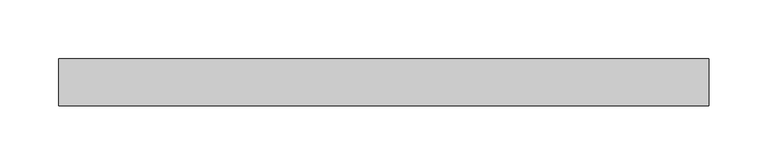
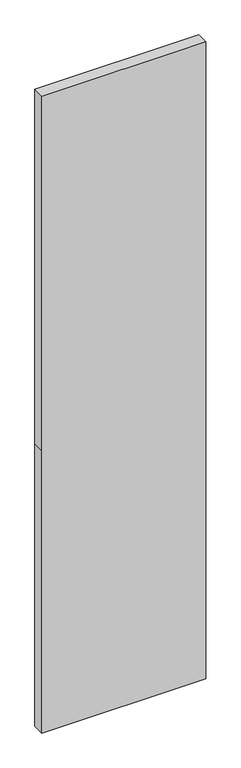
"""IFC4 building model written with IfcOpenShell, lengths in millimetres: plate geometry, Panneau système : Vitré."""

import ifcopenshell
import ifcopenshell.guid

model = None  # the IFC model being written
_history = None  # IfcOwnerHistory: only IFC2X3 demands one
_inside = {}  # id of a spatial element -> (the spatial element, [elements in it])
_under = {}  # id of a project, library or spatial element -> (it, [spatial elements below it])
_declared = {}  # id of a project -> (the project, [libraries it declares])
_typed = {}  # id of a type object -> (the type object, [elements of that type])
_made_of = {}  # id of a material, layer set ... -> (it, [elements and type objects made of it])


def new_model(schema):
    """Start an empty IFC model of exactly this schema.

    Asked for "IFC4X3", IfcOpenShell would pick the latest addendum, in which some entities
    have other attributes; the version numbers below select the first issue.
    IFC2X3 requires an IfcOwnerHistory on every rooted entity: one is made here for all.
    """
    global model, _history
    if schema == "IFC4X3":
        model = ifcopenshell.file(schema_version=(4, 3, 0, 0))
    else:
        model = ifcopenshell.file(schema=schema)
    _inside.clear()
    _under.clear()
    _declared.clear()
    _typed.clear()
    _made_of.clear()
    _history = None
    if model.schema == "IFC2X3":
        org = make("IfcOrganization", Name="unknown")
        user = make(
            "IfcPersonAndOrganization",
            ThePerson=make("IfcPerson", FamilyName="unknown"),
            TheOrganization=org,
        )
        app = make(
            "IfcApplication",
            ApplicationDeveloper=org,
            Version="unknown",
            ApplicationFullName="unknown",
            ApplicationIdentifier="unknown",
        )
        _history = make(
            "IfcOwnerHistory",
            OwningUser=user,
            OwningApplication=app,
            ChangeAction="ADDED",
            CreationDate=0,
        )
    return model


def make(cls, **values):
    """One entity of the class cls with the attributes given. An attribute that is None is left unset."""
    return model.create_entity(
        cls, **{name: value for name, value in values.items() if value is not None}
    )


def rooted(cls, **values):
    """An entity with a GlobalId (a new one), such as an element, a storey or a relation."""
    return make(cls, GlobalId=ifcopenshell.guid.new(), OwnerHistory=_history, **values)


def si_unit(unit_type, name, prefix=None):
    """IfcSIUnit, for example si_unit("LENGTHUNIT", "METRE", prefix="MILLI")."""
    return make("IfcSIUnit", UnitType=unit_type, Prefix=prefix, Name=name)


def assignment(units):
    """IfcUnitAssignment: the units of a project."""
    return None if units is None else make("IfcUnitAssignment", Units=units)


def point(xyz):
    """IfcCartesianPoint."""
    return None if xyz is None else make("IfcCartesianPoint", Coordinates=xyz)


def direction(xyz):
    """IfcDirection."""
    return None if xyz is None else make("IfcDirection", DirectionRatios=xyz)


def frame(location, z_axis=None, x_axis=None):
    """IfcAxis2Placement3D, a coordinate frame: its origin and axes. An axis left out is left unset."""
    return make(
        "IfcAxis2Placement3D",
        Location=point(location),
        Axis=direction(z_axis),
        RefDirection=direction(x_axis),
    )


def origin():
    """The frame at (0, 0, 0) with its axes left unset."""
    return frame((0.0, 0.0, 0.0))


def place(relative_to, where):
    """IfcLocalPlacement: puts the frame where relative to a parent placement (None: the world)."""
    return make(
        "IfcLocalPlacement", PlacementRelTo=relative_to, RelativePlacement=where
    )


def context(
    kind, dimensions, precision=None, world=None, true_north=None, identifier=None
):
    """IfcGeometricRepresentationContext, for example the 3D "Model" context."""
    return make(
        "IfcGeometricRepresentationContext",
        ContextIdentifier=identifier,
        ContextType=kind,
        CoordinateSpaceDimension=dimensions,
        Precision=precision,
        WorldCoordinateSystem=world,
        TrueNorth=true_north,
    )


def project(units=None, contexts=None):
    """IfcProject with its units and contexts."""
    return rooted(
        "IfcProject",
        Name="project",
        RepresentationContexts=contexts,
        UnitsInContext=assignment(units),
    )


def spatial(cls, under=None, at=None, **own):
    """A site, building, storey or space (cls), placed at a placement, below another one or the project."""
    s = rooted(cls, ObjectPlacement=at, **own)
    if under is not None:
        _under.setdefault(under.id(), (under, []))[1].append(s)
    return s


def polyline(points):
    """IfcPolyline through the points."""
    return make("IfcPolyline", Points=[point(p) for p in points])


def outline(outer, holes=None, kind="AREA"):
    """IfcArbitraryClosedProfileDef: a profile drawn as a closed curve; with holes, ...WithVoids."""
    if holes is None:
        return make("IfcArbitraryClosedProfileDef", ProfileType=kind, OuterCurve=outer)
    return make(
        "IfcArbitraryProfileDefWithVoids",
        ProfileType=kind,
        OuterCurve=outer,
        InnerCurves=holes,
    )


def extrude(swept, where, along, depth):
    """IfcExtrudedAreaSolid: the profile swept, set in the frame where, extruded along a direction by depth."""
    return make(
        "IfcExtrudedAreaSolid",
        SweptArea=swept,
        Position=where,
        ExtrudedDirection=direction(along),
        Depth=depth,
    )


def shape(context_of_items, identifier, shape_type, items):
    """IfcShapeRepresentation: the items that make up one representation, for example the "Body"."""
    return make(
        "IfcShapeRepresentation",
        ContextOfItems=context_of_items,
        RepresentationIdentifier=identifier,
        RepresentationType=shape_type,
        Items=items,
    )


def source(mapping_origin, context_of_items, identifier, shape_type, items):
    """IfcRepresentationMap: a shape defined once, which mapped items show again and again."""
    return make(
        "IfcRepresentationMap",
        MappingOrigin=mapping_origin,
        MappedRepresentation=shape(context_of_items, identifier, shape_type, items),
    )


def transform(
    local_origin,
    x_axis=None,
    y_axis=None,
    z_axis=None,
    scale=None,
    scale2=None,
    scale3=None,
    uniform=True,
):
    """IfcCartesianTransformationOperator3D, or its non-uniform kind. x_axis, y_axis, z_axis: its Axis1, 2, 3."""
    if uniform:
        return make(
            "IfcCartesianTransformationOperator3D",
            Axis1=direction(x_axis),
            Axis2=direction(y_axis),
            LocalOrigin=point(local_origin),
            Scale=scale,
            Axis3=direction(z_axis),
        )
    return make(
        "IfcCartesianTransformationOperator3DnonUniform",
        Axis1=direction(x_axis),
        Axis2=direction(y_axis),
        LocalOrigin=point(local_origin),
        Scale=scale,
        Axis3=direction(z_axis),
        Scale2=scale2,
        Scale3=scale3,
    )


def mapped(mapping_source, mapping_target):
    """IfcMappedItem: shows the shape of a source again, moved by a transform."""
    return make(
        "IfcMappedItem", MappingSource=mapping_source, MappingTarget=mapping_target
    )


def made_of(thing, what):
    """Note that an element or type object is made of a material, layer set ...; save() writes the relation."""
    if what is not None:
        _made_of.setdefault(what.id(), (what, []))[1].append(thing)
    return thing


def element(
    cls,
    number,
    at=None,
    inside=None,
    cuts=None,
    type_object=None,
    material=None,
    context=None,
    identifier="Body",
    shape_type=None,
    held_by="IfcProductDefinitionShape",
    body=None,
    shapes=None,
    **own,
):
    """One element of the class cls, such as IfcWall. Its Tag is "e" and its number.

    at: its placement. inside: the storey or other place that contains it. cuts: it is an
    opening in that element (IfcRelVoidsElement). A single representation is given by context,
    identifier, shape_type and body (its items); several are given by shapes. held_by: the class
    of the entity that holds the representations. save() writes the other relations.
    """
    e = rooted(cls, Tag="e%d" % number, ObjectPlacement=at, **own)
    if body is not None:
        shapes = [shape(context, identifier, shape_type, body)]
    if shapes is not None:
        e.Representation = make(held_by, Representations=shapes)
    if inside is not None:
        _inside.setdefault(inside.id(), (inside, []))[1].append(e)
    if cuts is not None:
        rooted(
            "IfcRelVoidsElement", RelatingBuildingElement=cuts, RelatedOpeningElement=e
        )
    if type_object is not None:
        _typed.setdefault(type_object.id(), (type_object, []))[1].append(e)
    return made_of(e, material)


def aggregate(whole, parts):
    """IfcRelAggregates: a whole, such as a stair, and the parts it consists of."""
    return rooted("IfcRelAggregates", RelatingObject=whole, RelatedObjects=parts)


def save(model, path):
    """Write the relations noted so far, then the file.

    IfcRelAggregates (storeys below a building ...), IfcRelContainedInSpatialStructure (elements
    in a storey), IfcRelDefinesByType, IfcRelAssociatesMaterial and IfcRelDeclares: one each for
    every whole, place, type object, material and project.
    """
    for whole, parts in _under.values():
        aggregate(whole, parts)
    for where, things in _inside.values():
        rooted(
            "IfcRelContainedInSpatialStructure",
            RelatedElements=things,
            RelatingStructure=where,
        )
    for kind, things in _typed.values():
        rooted("IfcRelDefinesByType", RelatedObjects=things, RelatingType=kind)
    for what, things in _made_of.values():
        rooted("IfcRelAssociatesMaterial", RelatedObjects=things, RelatingMaterial=what)
    for by, libraries in _declared.values():
        rooted("IfcRelDeclares", RelatingContext=by, RelatedDefinitions=libraries)
    model.write(path)


def plate_0f307522(model_context):
    return source(origin(), model_context, "Body", "SweptSolid", [
        extrude(outline(polyline([(0.0, -277.464743), (0.0, 277.464743), (1010.0, 277.464743), (2278.3333333, 277.464743), (2278.3333333, -277.464743), (1010.0, -277.464743), (0.0, -277.464743)])), frame((0.0, -20.0, 0.0), z_axis=(0.0, 1.0, 0.0), x_axis=(0.0, 0.0, 1.0)), (0.0, 0.0, 1.0), 40.0),
    ])


if __name__ == "__main__":
    model = new_model("IFC4")
    model_context = context("Model", 3, world=origin())
    ifc_project = project(units=[si_unit("LENGTHUNIT", "METRE", prefix="MILLI")], contexts=[model_context])
    site = spatial("IfcSite", under=ifc_project)
    building = spatial("IfcBuilding", under=site)
    placement = place(None, origin())
    plate_shape = plate_0f307522(model_context)
    element("IfcPlate", 1, ObjectType="Panneau système : Vitré", at=placement, inside=building, context=model_context, shape_type="MappedRepresentation", body=[
        mapped(plate_shape, transform((0.0, 0.0, 0.0), x_axis=(1.0, 0.0, 0.0), y_axis=(0.0, 1.0, 0.0), z_axis=(0.0, 0.0, 1.0))),
    ])
    save(model, "model.ifc")
